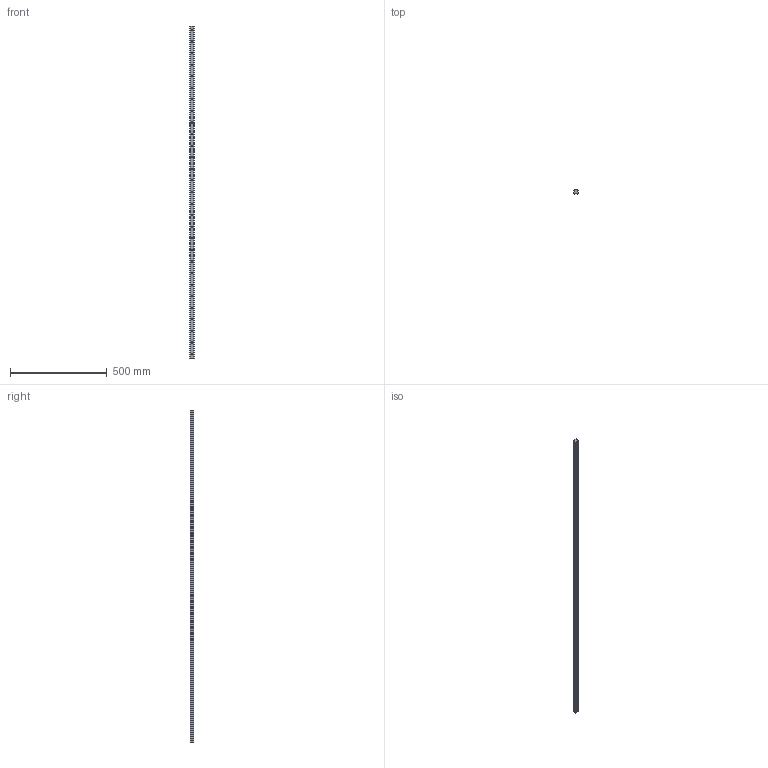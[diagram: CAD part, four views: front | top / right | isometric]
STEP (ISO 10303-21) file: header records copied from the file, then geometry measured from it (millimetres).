
FILE_DESCRIPTION (( 'STEP AP203' ), '1' );
FILE_NAME ('L1016.BRF25-1720.step', '2019-06-13T08:39:22', ( '' ), ( '' ), 'SwSTEP 2.0', 'SolidWorks 2017', '' );
FILE_SCHEMA (( 'CONFIG_CONTROL_DESIGN' ));
Length unit declared in the file: millimetre
Products named in the file (1): L1016.BRF25-1720
Bounding box: 23 x 19.2 x 1720 mm (x, y, z)
Volume: 656646.3 mm3; surface area: 158644.8 mm2
Topology: 1 solids, 1 shells, 229 faces, 536 edges, 309 vertices
Faces by surface type: cylinder 120, cone 58, plane 51
Entity records: 6237 total; most frequent: DIRECTION 1178, CARTESIAN_POINT 1017, ORIENTED_EDGE 956, EDGE_CURVE 478, AXIS2_PLACEMENT_3D 470, VERTEX_POINT 309, EDGE_LOOP 287, CIRCLE 240
